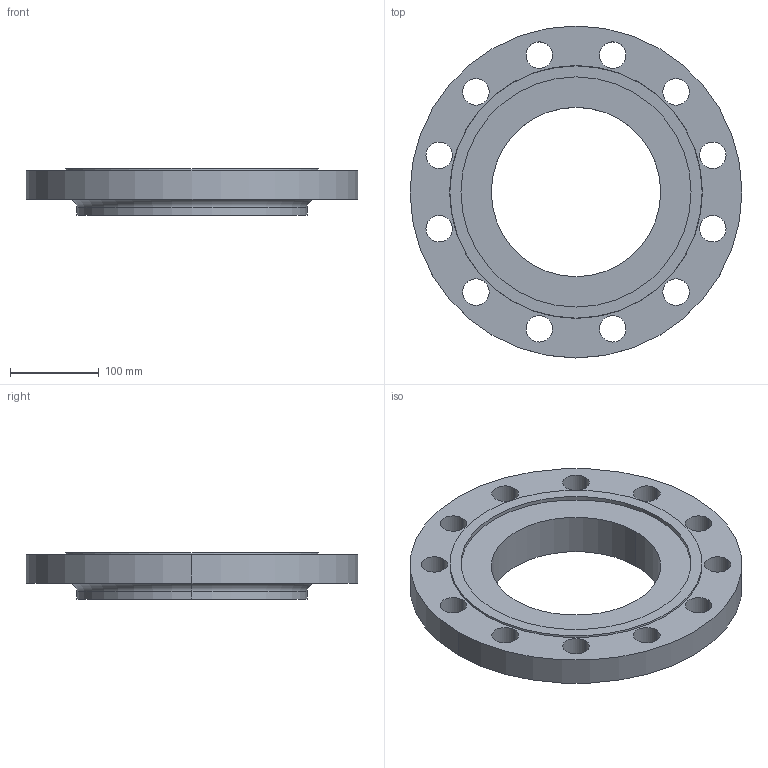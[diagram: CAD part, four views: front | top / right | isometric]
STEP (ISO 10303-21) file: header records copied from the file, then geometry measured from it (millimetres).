
FILE_DESCRIPTION (( 'STEP AP214' ), '1' );
FILE_NAME ('PN40 DN200 Type 13 - Type F Face.STEP', '2019-01-05T02:08:26', ( '' ), ( '' ), 'SwSTEP 2.0', 'SolidWorks 2019', '' );
FILE_SCHEMA (( 'AUTOMOTIVE_DESIGN' ));
Length unit declared in the file: millimetre
Products named in the file (1): PN40 DN200 Type 13 - Type F Face
Bounding box: 375 x 375 x 52 mm (x, y, z)
Volume: 2759521.7 mm3; surface area: 265284.8 mm2
Topology: 1 solids, 1 shells, 41 faces, 106 edges, 70 vertices
Faces by surface type: cylinder 32, plane 5, torus 2, cone 2
Entity records: 1382 total; most frequent: DIRECTION 262, CARTESIAN_POINT 218, ORIENTED_EDGE 212, AXIS2_PLACEMENT_3D 114, EDGE_CURVE 106, CIRCLE 72, VERTEX_POINT 70, EDGE_LOOP 70
